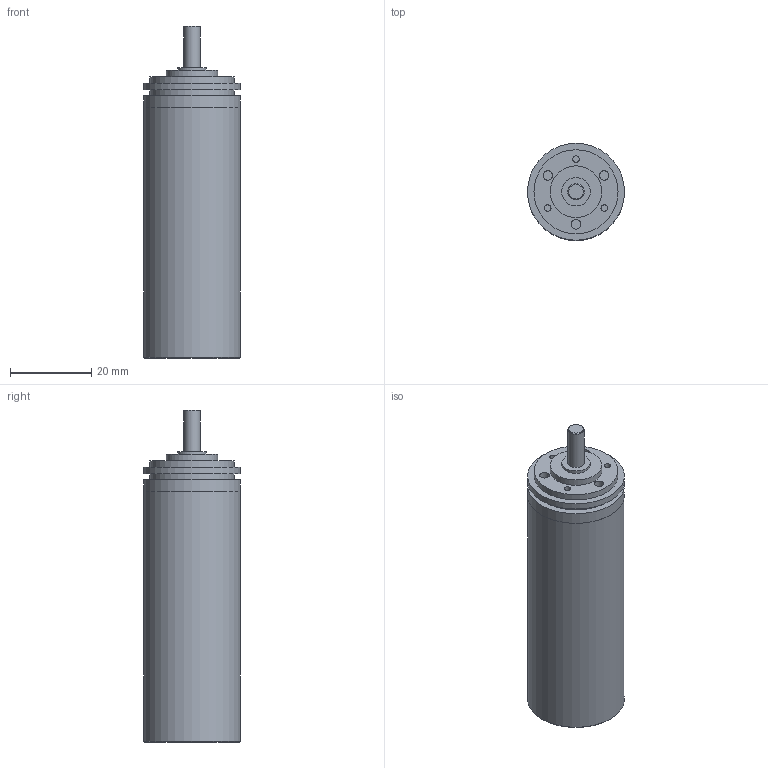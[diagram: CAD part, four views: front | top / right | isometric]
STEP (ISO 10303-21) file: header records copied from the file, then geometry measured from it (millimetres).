
FILE_DESCRIPTION(/* description */ (''),/* implementation_level */ '2;1');
FILE_NAME(/* name */ '22-2K_10.stp',/* time_stamp */ '2016-08-26T11:39:16+02:00',/* author */ ('DR. FRITZ FAULHABER GmbH & Co. KG'),/* organization */ ('DR. FRITZ FAULHABER GmbH & Co. KG'),/* preprocessor_version */ 'ST-DEVELOPER v16',/* originating_system */ 'SIEMENS PLM Software NX 10.0',/* authorisation */ '');
FILE_SCHEMA (('AUTOMOTIVE_DESIGN { 1 0 10303 214 3 1 1 1 }'));
Length unit declared in the file: millimetre
Products named in the file (1): H00000850_A
Bounding box: 23.8 x 23.8 x 81.5 mm (x, y, z)
Volume: 22797.4 mm3; surface area: 8120.2 mm2
Topology: 1 solids, 1 shells, 42 faces, 65 edges, 43 vertices
Faces by surface type: plane 20, cylinder 19, cone 3
Full cylindrical faces by diameter (mm): 1.6 x3, 2.329 x3, 3.5 x1, 4 x1, 4.5 x1, 7 x2, 12.7 x1, 20.63 x2, 22 x1, 23.79 x1, 23.8 x3
Entity records: 858 total; most frequent: DIRECTION 168, CARTESIAN_POINT 125, AXIS2_PLACEMENT_3D 84, EDGE_LOOP 82, ORIENTED_EDGE 82, FACE_BOUND 74, ADVANCED_FACE 42, VERTEX_POINT 41
